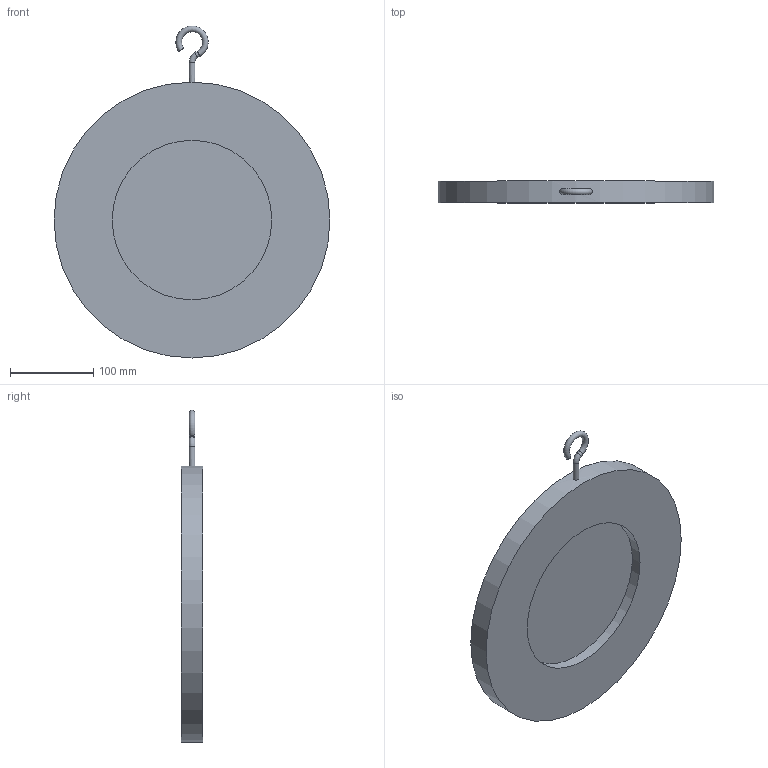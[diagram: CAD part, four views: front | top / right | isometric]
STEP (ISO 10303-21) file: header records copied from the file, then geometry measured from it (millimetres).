
FILE_DESCRIPTION(('STEP AP203'), '1');
FILE_NAME('孰囡囗 钺疣蝽 钿眍耱忸瘅囹 戾骠豚眦邂 008C DN250', '', ('UNSPECIFIED'), ('UNSPECIFIED'), 'ASCON STEP Converter 1.6', 'ASCON Math Kernel', '');
FILE_SCHEMA(('CONFIG_CONTROL_DESIGN'));
Length unit declared in the file: millimetre
Bounding box: 332 x 26 x 399.49 mm (x, y, z)
Volume: 1573827.4 mm3; surface area: 223483.9 mm2
Topology: 1 solids, 1 shells, 15 faces, 30 edges, 19 vertices
Faces by surface type: plane 7, cylinder 5, torus 2, cone 1
Full cylindrical faces by diameter (mm): 7 x2, 192 x1, 332 x1
Entity records: 757 total; most frequent: CARTESIAN_POINT 313, DIRECTION 62, ORIENTED_EDGE 46, AXIS2_PLACEMENT_3D 28, EDGE_LOOP 24, EDGE_CURVE 23, VERTEX_POINT 19, COLOUR_RGB 16
